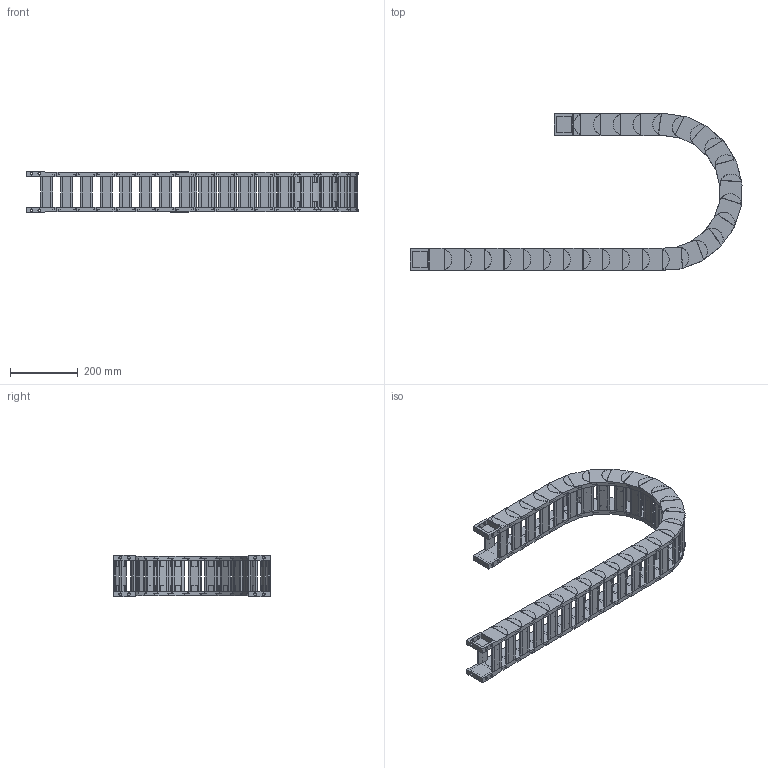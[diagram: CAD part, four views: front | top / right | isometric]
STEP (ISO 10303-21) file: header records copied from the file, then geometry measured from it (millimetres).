
FILE_DESCRIPTION((''),'2;1');
FILE_NAME('HD45-R200-ZPT_ASM','2022-06-20T19:51:20',('admin'),(''),'CREO PARAMETRIC BY PTC INC, 2021164','CREO PARAMETRIC BY PTC INC, 2021164','');
FILE_SCHEMA(('CONFIG_CONTROL_DESIGN','GEOMETRIC_VALIDATION_PROPERTIES_MIM'));
Length unit declared in the file: millimetre
Products named in the file (6): HD45-585; 45-500001; HD45_ASM; H45-T1-G; H45-T2-G; HD45-R200-ZPT_ASM
Assembly tree (32 placements, depth 3):
  HD45-R200-ZPT_ASM
    HD45_ASM  x26
      HD45-585
      45-500001
    H45-T1-G
    H45-T2-G
    45-500001  x2
Bounding box: 982.75 x 464.29 x 123.2 mm (x, y, z)
Volume: 4573248 mm3; surface area: 1576107.1 mm2
Topology: 112 solids, 112 shells, 2170 faces, 5810 edges, 3980 vertices
Faces by surface type: plane 1426, cylinder 744
Entity records: 8702 total; most frequent: CARTESIAN_POINT 1404, DIRECTION 1394, ORIENTED_EDGE 1276, EDGE_CURVE 638, AXIS2_PLACEMENT_3D 486, VERTEX_POINT 432, VECTOR 422, LINE 422
